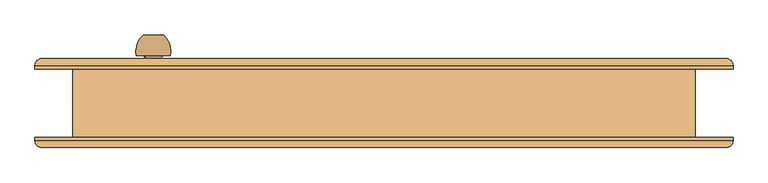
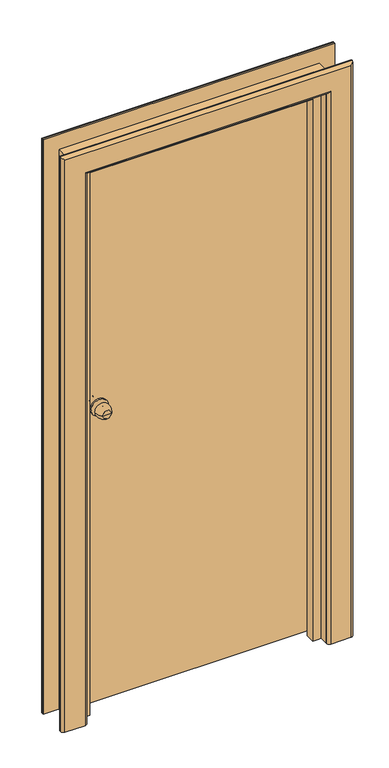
"""IFC4 building model written with IfcOpenShell, lengths in millimetres: door geometry, Внутренняя дверь 1-Навесная - 6629-88 : ДГ 21-9  ГОСТ 6629-88."""

import ifcopenshell
import ifcopenshell.guid

model = None  # the IFC model being written
_history = None  # IfcOwnerHistory: only IFC2X3 demands one
_inside = {}  # id of a spatial element -> (the spatial element, [elements in it])
_under = {}  # id of a project, library or spatial element -> (it, [spatial elements below it])
_declared = {}  # id of a project -> (the project, [libraries it declares])
_typed = {}  # id of a type object -> (the type object, [elements of that type])
_made_of = {}  # id of a material, layer set ... -> (it, [elements and type objects made of it])


def new_model(schema):
    """Start an empty IFC model of exactly this schema.

    Asked for "IFC4X3", IfcOpenShell would pick the latest addendum, in which some entities
    have other attributes; the version numbers below select the first issue.
    IFC2X3 requires an IfcOwnerHistory on every rooted entity: one is made here for all.
    """
    global model, _history
    if schema == "IFC4X3":
        model = ifcopenshell.file(schema_version=(4, 3, 0, 0))
    else:
        model = ifcopenshell.file(schema=schema)
    _inside.clear()
    _under.clear()
    _declared.clear()
    _typed.clear()
    _made_of.clear()
    _history = None
    if model.schema == "IFC2X3":
        org = make("IfcOrganization", Name="unknown")
        user = make(
            "IfcPersonAndOrganization",
            ThePerson=make("IfcPerson", FamilyName="unknown"),
            TheOrganization=org,
        )
        app = make(
            "IfcApplication",
            ApplicationDeveloper=org,
            Version="unknown",
            ApplicationFullName="unknown",
            ApplicationIdentifier="unknown",
        )
        _history = make(
            "IfcOwnerHistory",
            OwningUser=user,
            OwningApplication=app,
            ChangeAction="ADDED",
            CreationDate=0,
        )
    return model


def make(cls, **values):
    """One entity of the class cls with the attributes given. An attribute that is None is left unset."""
    return model.create_entity(
        cls, **{name: value for name, value in values.items() if value is not None}
    )


def rooted(cls, **values):
    """An entity with a GlobalId (a new one), such as an element, a storey or a relation."""
    return make(cls, GlobalId=ifcopenshell.guid.new(), OwnerHistory=_history, **values)


def si_unit(unit_type, name, prefix=None):
    """IfcSIUnit, for example si_unit("LENGTHUNIT", "METRE", prefix="MILLI")."""
    return make("IfcSIUnit", UnitType=unit_type, Prefix=prefix, Name=name)


def assignment(units):
    """IfcUnitAssignment: the units of a project."""
    return None if units is None else make("IfcUnitAssignment", Units=units)


def point(xyz):
    """IfcCartesianPoint."""
    return None if xyz is None else make("IfcCartesianPoint", Coordinates=xyz)


def direction(xyz):
    """IfcDirection."""
    return None if xyz is None else make("IfcDirection", DirectionRatios=xyz)


def frame(location, z_axis=None, x_axis=None):
    """IfcAxis2Placement3D, a coordinate frame: its origin and axes. An axis left out is left unset."""
    return make(
        "IfcAxis2Placement3D",
        Location=point(location),
        Axis=direction(z_axis),
        RefDirection=direction(x_axis),
    )


def origin():
    """The frame at (0, 0, 0) with its axes left unset."""
    return frame((0.0, 0.0, 0.0))


def place(relative_to, where):
    """IfcLocalPlacement: puts the frame where relative to a parent placement (None: the world)."""
    return make(
        "IfcLocalPlacement", PlacementRelTo=relative_to, RelativePlacement=where
    )


def context(
    kind, dimensions, precision=None, world=None, true_north=None, identifier=None
):
    """IfcGeometricRepresentationContext, for example the 3D "Model" context."""
    return make(
        "IfcGeometricRepresentationContext",
        ContextIdentifier=identifier,
        ContextType=kind,
        CoordinateSpaceDimension=dimensions,
        Precision=precision,
        WorldCoordinateSystem=world,
        TrueNorth=true_north,
    )


def project(units=None, contexts=None):
    """IfcProject with its units and contexts."""
    return rooted(
        "IfcProject",
        Name="project",
        RepresentationContexts=contexts,
        UnitsInContext=assignment(units),
    )


def spatial(cls, under=None, at=None, **own):
    """A site, building, storey or space (cls), placed at a placement, below another one or the project."""
    s = rooted(cls, ObjectPlacement=at, **own)
    if under is not None:
        _under.setdefault(under.id(), (under, []))[1].append(s)
    return s


def polyline(points):
    """IfcPolyline through the points."""
    return make("IfcPolyline", Points=[point(p) for p in points])


def circle_curve(where, radius):
    """IfcCircle in the frame where."""
    return make("IfcCircle", Position=where, Radius=radius)


def ellipse_curve(where, semi_axis1, semi_axis2):
    """IfcEllipse in the frame where."""
    return make(
        "IfcEllipse", Position=where, SemiAxis1=semi_axis1, SemiAxis2=semi_axis2
    )


def trimmed(basis, trim1, trim2, sense, master):
    """IfcTrimmedCurve: the piece of a basis curve between two trims."""
    return make(
        "IfcTrimmedCurve",
        BasisCurve=basis,
        Trim1=trim1,
        Trim2=trim2,
        SenseAgreement=sense,
        MasterRepresentation=master,
    )


def outline(outer, holes=None, kind="AREA"):
    """IfcArbitraryClosedProfileDef: a profile drawn as a closed curve; with holes, ...WithVoids."""
    if holes is None:
        return make("IfcArbitraryClosedProfileDef", ProfileType=kind, OuterCurve=outer)
    return make(
        "IfcArbitraryProfileDefWithVoids",
        ProfileType=kind,
        OuterCurve=outer,
        InnerCurves=holes,
    )


def extrude(swept, where, along, depth):
    """IfcExtrudedAreaSolid: the profile swept, set in the frame where, extruded along a direction by depth."""
    return make(
        "IfcExtrudedAreaSolid",
        SweptArea=swept,
        Position=where,
        ExtrudedDirection=direction(along),
        Depth=depth,
    )


def faces_of(points, faces, orient=None, outer=None):
    """IfcFace entities. A face is a list of loops; a loop is a list of indices into points, from 0.

    orient and outer hold one flag for each loop. By default every Orientation is true, the
    first loop of a face is its IfcFaceOuterBound and the others are IfcFaceBound.
    """
    made = []
    for i, loops in enumerate(faces):
        bounds = []
        for j, loop in enumerate(loops):
            is_outer = j == 0 if outer is None else outer[i][j]
            bounds.append(
                make(
                    "IfcFaceOuterBound" if is_outer else "IfcFaceBound",
                    Bound=make("IfcPolyLoop", Polygon=[points[k] for k in loop]),
                    Orientation=True if orient is None else orient[i][j],
                )
            )
        made.append(make("IfcFace", Bounds=bounds))
    return made


def faceted_brep(points, faces, orient=None, outer=None, voids=None):
    """IfcFacetedBrep: a solid bounded by flat faces; with voids (closed shells), ...WithVoids."""
    shared = [point(p) for p in points]
    hull = make("IfcClosedShell", CfsFaces=faces_of(shared, faces, orient, outer))
    if voids is None:
        return make("IfcFacetedBrep", Outer=hull)
    return make(
        "IfcFacetedBrepWithVoids",
        Outer=hull,
        Voids=[
            make(cls, CfsFaces=faces_of(shared, fs, o, b)) for cls, fs, o, b in voids
        ],
    )


def shape(context_of_items, identifier, shape_type, items):
    """IfcShapeRepresentation: the items that make up one representation, for example the "Body"."""
    return make(
        "IfcShapeRepresentation",
        ContextOfItems=context_of_items,
        RepresentationIdentifier=identifier,
        RepresentationType=shape_type,
        Items=items,
    )


def source(mapping_origin, context_of_items, identifier, shape_type, items):
    """IfcRepresentationMap: a shape defined once, which mapped items show again and again."""
    return make(
        "IfcRepresentationMap",
        MappingOrigin=mapping_origin,
        MappedRepresentation=shape(context_of_items, identifier, shape_type, items),
    )


def transform(
    local_origin,
    x_axis=None,
    y_axis=None,
    z_axis=None,
    scale=None,
    scale2=None,
    scale3=None,
    uniform=True,
):
    """IfcCartesianTransformationOperator3D, or its non-uniform kind. x_axis, y_axis, z_axis: its Axis1, 2, 3."""
    if uniform:
        return make(
            "IfcCartesianTransformationOperator3D",
            Axis1=direction(x_axis),
            Axis2=direction(y_axis),
            LocalOrigin=point(local_origin),
            Scale=scale,
            Axis3=direction(z_axis),
        )
    return make(
        "IfcCartesianTransformationOperator3DnonUniform",
        Axis1=direction(x_axis),
        Axis2=direction(y_axis),
        LocalOrigin=point(local_origin),
        Scale=scale,
        Axis3=direction(z_axis),
        Scale2=scale2,
        Scale3=scale3,
    )


def mapped(mapping_source, mapping_target):
    """IfcMappedItem: shows the shape of a source again, moved by a transform."""
    return make(
        "IfcMappedItem", MappingSource=mapping_source, MappingTarget=mapping_target
    )


def made_of(thing, what):
    """Note that an element or type object is made of a material, layer set ...; save() writes the relation."""
    if what is not None:
        _made_of.setdefault(what.id(), (what, []))[1].append(thing)
    return thing


def element(
    cls,
    number,
    at=None,
    inside=None,
    cuts=None,
    type_object=None,
    material=None,
    context=None,
    identifier="Body",
    shape_type=None,
    held_by="IfcProductDefinitionShape",
    body=None,
    shapes=None,
    **own,
):
    """One element of the class cls, such as IfcWall. Its Tag is "e" and its number.

    at: its placement. inside: the storey or other place that contains it. cuts: it is an
    opening in that element (IfcRelVoidsElement). A single representation is given by context,
    identifier, shape_type and body (its items); several are given by shapes. held_by: the class
    of the entity that holds the representations. save() writes the other relations.
    """
    e = rooted(cls, Tag="e%d" % number, ObjectPlacement=at, **own)
    if body is not None:
        shapes = [shape(context, identifier, shape_type, body)]
    if shapes is not None:
        e.Representation = make(held_by, Representations=shapes)
    if inside is not None:
        _inside.setdefault(inside.id(), (inside, []))[1].append(e)
    if cuts is not None:
        rooted(
            "IfcRelVoidsElement", RelatingBuildingElement=cuts, RelatedOpeningElement=e
        )
    if type_object is not None:
        _typed.setdefault(type_object.id(), (type_object, []))[1].append(e)
    return made_of(e, material)


def aggregate(whole, parts):
    """IfcRelAggregates: a whole, such as a stair, and the parts it consists of."""
    return rooted("IfcRelAggregates", RelatingObject=whole, RelatedObjects=parts)


def save(model, path):
    """Write the relations noted so far, then the file.

    IfcRelAggregates (storeys below a building ...), IfcRelContainedInSpatialStructure (elements
    in a storey), IfcRelDefinesByType, IfcRelAssociatesMaterial and IfcRelDeclares: one each for
    every whole, place, type object, material and project.
    """
    for whole, parts in _under.values():
        aggregate(whole, parts)
    for where, things in _inside.values():
        rooted(
            "IfcRelContainedInSpatialStructure",
            RelatedElements=things,
            RelatingStructure=where,
        )
    for kind, things in _typed.values():
        rooted("IfcRelDefinesByType", RelatedObjects=things, RelatingType=kind)
    for what, things in _made_of.values():
        rooted("IfcRelAssociatesMaterial", RelatedObjects=things, RelatingMaterial=what)
    for by, libraries in _declared.values():
        rooted("IfcRelDeclares", RelatingContext=by, RelatedDefinitions=libraries)
    model.write(path)


def plane_surface(at):
    """IfcPlane: the flat surface through the origin of the frame at, square to its z axis."""
    return make("IfcPlane", Position=at)


def cylinder_surface(at, radius):
    """IfcCylindricalSurface: all points at the distance radius from the z axis of the frame at."""
    return make("IfcCylindricalSurface", Position=at, Radius=radius)


def revolved_surface(curve, axis_point, axis_direction):
    """IfcSurfaceOfRevolution: the curve turned about the line through axis_point along axis_direction."""
    return make(
        "IfcSurfaceOfRevolution",
        SweptCurve=make("IfcArbitraryOpenProfileDef", ProfileType="CURVE", Curve=curve),
        AxisPosition=make("IfcAxis1Placement", Location=point(axis_point), Axis=direction(axis_direction)),
    )


def advanced_brep(points, edges, surfaces, faces):
    """IfcAdvancedBrep: a solid bounded by faces that lie on surfaces and meet in shared edges.

    An edge is (start, end): straight between two places in points (the first is 0);
    or (start, end, curve); or (start, end, curve, False) where it runs against its curve.
    A face is (place in surfaces, loops), or (place, loops, False) where it looks against
    its surface's normal. A loop lists edges by number (the first is 1), with a minus sign
    where the edge is run from its end to its start. The first loop is the outer one.
    """
    corners = [point(p) for p in points]
    vertices = [make("IfcVertexPoint", VertexGeometry=c) for c in corners]
    made = []
    for start, end, *more in edges:
        made.append(
            make(
                "IfcEdgeCurve",
                EdgeStart=vertices[start],
                EdgeEnd=vertices[end],
                EdgeGeometry=more[0] if more else make("IfcPolyline", Points=[corners[start], corners[end]]),
                SameSense=more[1] if len(more) > 1 else True,
            )
        )
    hull = []
    for where, loops, *sense in faces:
        bounds = []
        for j, loop in enumerate(loops):
            ring = [make("IfcOrientedEdge", EdgeElement=made[abs(k) - 1], Orientation=k > 0) for k in loop]
            bounds.append(
                make(
                    "IfcFaceOuterBound" if j == 0 else "IfcFaceBound",
                    Bound=make("IfcEdgeLoop", EdgeList=ring),
                    Orientation=True,
                )
            )
        hull.append(make("IfcAdvancedFace", Bounds=bounds, FaceSurface=surfaces[where], SameSense=sense[0] if sense else True))
    return make("IfcAdvancedBrep", Outer=make("IfcClosedShell", CfsFaces=hull))


def door_71a0a05f(model_context):
    return source(origin(), model_context, "Body", "SolidModel", [
        advanced_brep(
        [(-322.0, 100.0, 1100.0), (-337.0, 100.0, 1100.0), (-352.0, 100.0, 1100.0), (-362.0, 70.0, 1100.0), (-312.0, 70.0, 1100.0), (-355.0, 70.0, 1100.0), (-319.0, 70.0, 1100.0), (-347.0, 62.0, 1100.0), (-327.0, 62.0, 1100.0), (-347.0, 56.0, 1100.0), (-327.0, 56.0, 1100.0), (-367.0, 56.0, 1100.0), (-307.0, 56.0, 1100.0), (-367.0, 50.0, 1100.0), (-307.0, 50.0, 1100.0)],
        [
            (0, 1),
            (1, 2),
            (2, 0, circle_curve(frame((-337.0, 100.0, 1100.0), z_axis=(0.0, 1.0, 0.0), x_axis=(-1.0, 0.0, 0.0)), 15.0)),
            (0, 2, circle_curve(frame((-337.0, 100.0, 1100.0), z_axis=(0.0, 1.0, 0.0), x_axis=(-1.0, 0.0, 0.0)), 15.0)),
            (2, 3, circle_curve(frame((-327.3773735, 75.1257912, 1100.0), z_axis=(0.0, 0.0, 1.0), x_axis=(1.0, 0.0, 0.0)), 35.0)),
            (3, 4, circle_curve(frame((-337.0, 70.0, 1100.0), z_axis=(0.0, 1.0, 0.0), x_axis=(-1.0, 0.0, 0.0)), 25.0)),
            (4, 0, circle_curve(frame((-346.6226265, 75.1257912, 1100.0), z_axis=(0.0, 0.0, 1.0), x_axis=(-1.0, 0.0, 0.0)), 35.0)),
            (4, 3, circle_curve(frame((-337.0, 70.0, 1100.0), z_axis=(0.0, 1.0, 0.0), x_axis=(-1.0, 0.0, 0.0)), 25.0)),
            (3, 5),
            (5, 6, circle_curve(frame((-337.0, 70.0, 1100.0), z_axis=(0.0, 1.0, 0.0), x_axis=(-1.0, 0.0, 0.0)), 18.0)),
            (6, 4),
            (6, 5, circle_curve(frame((-337.0, 70.0, 1100.0), z_axis=(0.0, 1.0, 0.0), x_axis=(-1.0, 0.0, 0.0)), 18.0)),
            (5, 7, circle_curve(frame((-355.0, 62.0, 1100.0), z_axis=(0.0, 0.0, -1.0), x_axis=(1.0, 0.0, 0.0)), 8.0)),
            (7, 8, circle_curve(frame((-337.0, 62.0, 1100.0), z_axis=(0.0, 1.0, 0.0), x_axis=(-1.0, 0.0, 0.0)), 10.0)),
            (8, 6, circle_curve(frame((-319.0, 62.0, 1100.0), z_axis=(0.0, 0.0, -1.0), x_axis=(-1.0, 0.0, 0.0)), 8.0)),
            (8, 7, circle_curve(frame((-337.0, 62.0, 1100.0), z_axis=(0.0, 1.0, 0.0), x_axis=(-1.0, 0.0, 0.0)), 10.0)),
            (7, 9),
            (9, 10, circle_curve(frame((-337.0, 56.0, 1100.0), z_axis=(0.0, 1.0, 0.0), x_axis=(-1.0, 0.0, 0.0)), 10.0)),
            (10, 8),
            (10, 9, circle_curve(frame((-337.0, 56.0, 1100.0), z_axis=(0.0, 1.0, 0.0), x_axis=(-1.0, 0.0, 0.0)), 10.0)),
            (11, 12, circle_curve(frame((-337.0, 56.0, 1100.0), z_axis=(0.0, 1.0, 0.0), x_axis=(1.0, 0.0, 0.0)), 30.0)),
            (12, 11, circle_curve(frame((-337.0, 56.0, 1100.0), z_axis=(0.0, 1.0, 0.0), x_axis=(1.0, 0.0, 0.0)), 30.0)),
            (13, 14, circle_curve(frame((-337.0, 50.0, 1100.0), z_axis=(0.0, -1.0, 0.0), x_axis=(1.0, 0.0, 0.0)), 30.0)),
            (14, 13, circle_curve(frame((-337.0, 50.0, 1100.0), z_axis=(0.0, -1.0, 0.0), x_axis=(1.0, 0.0, 0.0)), 30.0)),
            (12, 14),
            (13, 11),
        ],
        [
            plane_surface(frame((-337.0, 100.0, 1100.0), z_axis=(0.0, 1.0, 0.0), x_axis=(-1.0, 0.0, 0.0))),
            revolved_surface(trimmed(ellipse_curve(frame((-327.3773735, 75.1257912, 1100.0), z_axis=(0.0, 0.0, 1.0), x_axis=(1.0, 0.0, 0.0)), 35.0, 35.0), [point((-352.0, 100.0, 1100.0))], [point((-362.0, 70.0, 1100.0))], True, "CARTESIAN"), (-337.0, 130.0, 1100.0), (0.0, -1.0, 0.0)),
            plane_surface(frame((-337.0, 70.0, 1100.0), z_axis=(0.0, -1.0, 0.0), x_axis=(-1.0, 0.0, 0.0))),
            revolved_surface(trimmed(ellipse_curve(frame((-355.0, 62.0, 1100.0), z_axis=(0.0, 0.0, -1.0), x_axis=(1.0, 0.0, 0.0)), 8.0, 8.0), [point((-355.0, 70.0, 1100.0))], [point((-347.0, 62.0, 1100.0))], True, "CARTESIAN"), (-337.0, 130.0, 1100.0), (0.0, -1.0, 0.0)),
            cylinder_surface(frame((-337.0, 130.0, 1100.0), z_axis=(0.0, -1.0, 0.0), x_axis=(-1.0, 0.0, 0.0)), 10.0),
            plane_surface(frame((-307.0, 56.0, 1100.0), z_axis=(0.0, 1.0, 0.0), x_axis=(0.0, 0.0, 1.0))),
            plane_surface(frame((-307.0, 50.0, 1100.0), z_axis=(0.0, -1.0, 0.0), x_axis=(0.0, 0.0, -1.0))),
            cylinder_surface(frame((-337.0, 50.0, 1100.0), z_axis=(0.0, 1.0, 0.0), x_axis=(1.0, 0.0, 0.0)), 30.0),
        ],
        [
            (0, [[1, 2, 3]]),
            (0, [[-1, 4, -2]]),
            (1, [[5, 6, 7, -3]]),
            (1, [[-7, 8, -5, -4]]),
            (2, [[9, 10, 11, -6]]),
            (2, [[-11, 12, -9, -8]]),
            (3, [[13, 14, 15, -10]]),
            (3, [[-15, 16, -13, -12]]),
            (4, [[17, 18, 19, -14]]),
            (4, [[-19, 20, -17, -16]]),
            (5, [[21, 22], [-20, -18]]),
            (6, [[23, 24]]),
            (7, [[25, -23, 26, -22]]),
            (7, [[-26, -24, -25, -21]]),
        ],
    ),
        advanced_brep(
        [(-352.0, -37.0, 1100.0), (-337.0, -37.0, 1100.0), (-322.0, -37.0, 1100.0), (-312.0, -7.0, 1100.0), (-362.0, -7.0, 1100.0), (-319.0, -7.0, 1100.0), (-355.0, -7.0, 1100.0), (-327.0, 1.0, 1100.0), (-347.0, 1.0, 1100.0), (-327.0, 7.0, 1100.0), (-347.0, 7.0, 1100.0), (-307.0, 7.0, 1100.0), (-367.0, 7.0, 1100.0), (-307.0, 13.0, 1100.0), (-367.0, 13.0, 1100.0)],
        [
            (0, 1),
            (1, 2),
            (2, 0, circle_curve(frame((-337.0, -37.0, 1100.0), z_axis=(0.0, -1.0, 0.0), x_axis=(1.0, 0.0, 0.0)), 15.0)),
            (0, 2, circle_curve(frame((-337.0, -37.0, 1100.0), z_axis=(0.0, -1.0, 0.0), x_axis=(1.0, 0.0, 0.0)), 15.0)),
            (2, 3, circle_curve(frame((-346.6226265, -12.1257912, 1100.0), z_axis=(0.0, 0.0, 1.0), x_axis=(-1.0, 0.0, 0.0)), 35.0)),
            (3, 4, circle_curve(frame((-337.0, -7.0, 1100.0), z_axis=(0.0, -1.0, 0.0), x_axis=(1.0, 0.0, 0.0)), 25.0)),
            (4, 0, circle_curve(frame((-327.3773735, -12.1257912, 1100.0), z_axis=(0.0, 0.0, 1.0), x_axis=(1.0, 0.0, 0.0)), 35.0)),
            (4, 3, circle_curve(frame((-337.0, -7.0, 1100.0), z_axis=(0.0, -1.0, 0.0), x_axis=(1.0, 0.0, 0.0)), 25.0)),
            (3, 5),
            (5, 6, circle_curve(frame((-337.0, -7.0, 1100.0), z_axis=(0.0, -1.0, 0.0), x_axis=(1.0, 0.0, 0.0)), 18.0)),
            (6, 4),
            (6, 5, circle_curve(frame((-337.0, -7.0, 1100.0), z_axis=(0.0, -1.0, 0.0), x_axis=(1.0, 0.0, 0.0)), 18.0)),
            (5, 7, circle_curve(frame((-319.0, 1.0, 1100.0), z_axis=(0.0, 0.0, -1.0), x_axis=(-1.0, 0.0, 0.0)), 8.0)),
            (7, 8, circle_curve(frame((-337.0, 1.0, 1100.0), z_axis=(0.0, -1.0, 0.0), x_axis=(1.0, 0.0, 0.0)), 10.0)),
            (8, 6, circle_curve(frame((-355.0, 1.0, 1100.0), z_axis=(0.0, 0.0, -1.0), x_axis=(1.0, 0.0, 0.0)), 8.0)),
            (8, 7, circle_curve(frame((-337.0, 1.0, 1100.0), z_axis=(0.0, -1.0, 0.0), x_axis=(1.0, 0.0, 0.0)), 10.0)),
            (7, 9),
            (9, 10, circle_curve(frame((-337.0, 7.0, 1100.0), z_axis=(0.0, -1.0, 0.0), x_axis=(1.0, 0.0, 0.0)), 10.0)),
            (10, 8),
            (10, 9, circle_curve(frame((-337.0, 7.0, 1100.0), z_axis=(0.0, -1.0, 0.0), x_axis=(1.0, 0.0, 0.0)), 10.0)),
            (11, 12, circle_curve(frame((-337.0, 7.0, 1100.0), z_axis=(0.0, -1.0, 0.0), x_axis=(-1.0, 0.0, 0.0)), 30.0)),
            (12, 11, circle_curve(frame((-337.0, 7.0, 1100.0), z_axis=(0.0, -1.0, 0.0), x_axis=(-1.0, 0.0, 0.0)), 30.0)),
            (13, 14, circle_curve(frame((-337.0, 13.0, 1100.0), z_axis=(0.0, 1.0, 0.0), x_axis=(-1.0, 0.0, 0.0)), 30.0)),
            (14, 13, circle_curve(frame((-337.0, 13.0, 1100.0), z_axis=(0.0, 1.0, 0.0), x_axis=(-1.0, 0.0, 0.0)), 30.0)),
            (12, 14),
            (13, 11),
        ],
        [
            plane_surface(frame((-337.0, -37.0, 1100.0), z_axis=(0.0, -1.0, 0.0), x_axis=(1.0, 0.0, 0.0))),
            revolved_surface(trimmed(ellipse_curve(frame((-346.6226265, -12.1257912, 1100.0), z_axis=(0.0, 0.0, 1.0), x_axis=(-1.0, 0.0, 0.0)), 35.0, 35.0), [point((-322.0, -37.0, 1100.0))], [point((-312.0, -7.0, 1100.0))], True, "CARTESIAN"), (-337.0, -67.0, 1100.0), (0.0, 1.0, 0.0)),
            plane_surface(frame((-337.0, -7.0, 1100.0), z_axis=(0.0, 1.0, 0.0), x_axis=(1.0, 0.0, 0.0))),
            revolved_surface(trimmed(ellipse_curve(frame((-319.0, 1.0, 1100.0), z_axis=(0.0, 0.0, -1.0), x_axis=(-1.0, 0.0, 0.0)), 8.0, 8.0), [point((-319.0, -7.0, 1100.0))], [point((-327.0, 1.0, 1100.0))], True, "CARTESIAN"), (-337.0, -67.0, 1100.0), (0.0, 1.0, 0.0)),
            cylinder_surface(frame((-337.0, -67.0, 1100.0), z_axis=(0.0, 1.0, 0.0), x_axis=(1.0, 0.0, 0.0)), 10.0),
            plane_surface(frame((-367.0, 7.0, 1100.0), z_axis=(0.0, -1.0, 0.0), x_axis=(0.0, 0.0, 1.0))),
            plane_surface(frame((-367.0, 13.0, 1100.0), z_axis=(0.0, 1.0, 0.0), x_axis=(0.0, 0.0, -1.0))),
            cylinder_surface(frame((-337.0, 13.0, 1100.0), z_axis=(0.0, -1.0, 0.0), x_axis=(-1.0, 0.0, 0.0)), 30.0),
        ],
        [
            (0, [[1, 2, 3]]),
            (0, [[-1, 4, -2]]),
            (1, [[5, 6, 7, -3]]),
            (1, [[-7, 8, -5, -4]]),
            (2, [[9, 10, 11, -6]]),
            (2, [[-11, 12, -9, -8]]),
            (3, [[13, 14, 15, -10]]),
            (3, [[-15, 16, -13, -12]]),
            (4, [[17, 18, 19, -14]]),
            (4, [[-19, 20, -17, -16]]),
            (5, [[21, 22], [-20, -18]]),
            (6, [[23, 24]]),
            (7, [[25, -23, 26, -22]]),
            (7, [[-26, -24, -25, -21]]),
        ],
    ),
        extrude(outline(polyline([(0.0, 435.0), (2050.0, 435.0), (2050.0, -435.0), (0.0, -435.0), (0.0, -420.0), (2035.0, -420.0), (2035.0, 420.0), (0.0, 420.0), (0.0, 435.0)])), frame((0.0, -50.0, 0.0), z_axis=(0.0, 1.0, 0.0), x_axis=(0.0, 0.0, 1.0)), (0.0, 0.0, 1.0), 26.0),
        advanced_brep(
        [(-510.0, 50.0, 0.0), (-510.0, 55.0, 0.0), (-500.0, 65.0, 0.0), (-430.0, 65.0, 0.0), (-420.0, 55.0, 0.0), (-420.0, 50.0, 0.0), (-420.0, 50.0, 2035.0), (420.0, 50.0, 2035.0), (420.0, 50.0, 0.0), (510.0, 50.0, 0.0), (510.0, 50.0, 2125.0), (-510.0, 50.0, 2125.0), (-420.0, 55.0, 2035.0), (-430.0, 65.0, 2045.0), (-500.0, 65.0, 2115.0), (500.0, 65.0, 2115.0), (500.0, 65.0, 0.0), (430.0, 65.0, 0.0), (430.0, 65.0, 2045.0), (-510.0, 55.0, 2125.0), (510.0, 55.0, 0.0), (510.0, 55.0, 2125.0), (420.0, 55.0, 0.0), (420.0, 55.0, 2035.0)],
        [
            (0, 1),
            (1, 2, circle_curve(frame((-500.0, 55.0, 0.0), z_axis=(0.0, 0.0, -1.0), x_axis=(-1.0, 0.0, 0.0)), 10.0)),
            (2, 3),
            (3, 4, circle_curve(frame((-430.0, 55.0, 0.0), z_axis=(0.0, 0.0, -1.0), x_axis=(-1.0, 0.0, 0.0)), 10.0)),
            (4, 5),
            (5, 0),
            (5, 6),
            (6, 7),
            (7, 8),
            (8, 9),
            (9, 10),
            (10, 11),
            (11, 0),
            (4, 12),
            (12, 6),
            (3, 13),
            (13, 12, ellipse_curve(frame((-430.0, 55.0, 2045.0), z_axis=(-0.7071067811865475, 0.0, -0.7071067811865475), x_axis=(0.7071067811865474, 0.0, -0.7071067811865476)), 14.1421356, 10.0)),
            (2, 14),
            (14, 15),
            (15, 16),
            (16, 17),
            (17, 18),
            (18, 13),
            (1, 19),
            (19, 14, ellipse_curve(frame((-500.0, 55.0, 2115.0), z_axis=(-0.7071067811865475, 0.0, -0.7071067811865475), x_axis=(0.7071067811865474, 0.0, -0.7071067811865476)), 14.1421356, 10.0)),
            (11, 19),
            (9, 20),
            (20, 21),
            (21, 10),
            (8, 22),
            (22, 17, circle_curve(frame((430.0, 55.0, 0.0), z_axis=(0.0, 0.0, -1.0), x_axis=(1.0, 0.0, 0.0)), 10.0)),
            (16, 20, circle_curve(frame((500.0, 55.0, 0.0), z_axis=(0.0, 0.0, -1.0), x_axis=(1.0, 0.0, 0.0)), 10.0)),
            (23, 22),
            (7, 23),
            (23, 18, ellipse_curve(frame((430.0, 55.0, 2045.0), z_axis=(0.7071067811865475, 0.0, -0.7071067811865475), x_axis=(0.7071067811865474, 0.0, 0.7071067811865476)), 14.1421356, 10.0)),
            (15, 21, ellipse_curve(frame((500.0, 55.0, 2115.0), z_axis=(0.7071067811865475, 0.0, -0.7071067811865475), x_axis=(0.7071067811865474, 0.0, 0.7071067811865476)), 14.1421356, 10.0)),
            (12, 23),
            (19, 21),
        ],
        [
            plane_surface(frame((-455.0, 50.0, 0.0), z_axis=(0.0, 0.0, -1.0), x_axis=(0.0, -1.0, 0.0))),
            plane_surface(frame((-510.0, 50.0, 0.0), z_axis=(0.0, -1.0, 0.0), x_axis=(0.0, 0.0, 1.0))),
            plane_surface(frame((-420.0, 50.0, 0.0), z_axis=(1.0, 0.0, 0.0), x_axis=(0.0, 0.0, 1.0))),
            cylinder_surface(frame((-430.0, 55.0, 0.0), z_axis=(0.0, 0.0, -1.0), x_axis=(-1.0, 0.0, 0.0)), 10.0),
            plane_surface(frame((-430.0, 65.0, 0.0), z_axis=(0.0, 1.0, 0.0), x_axis=(0.0, 0.0, 1.0))),
            cylinder_surface(frame((-500.0, 55.0, 0.0), z_axis=(0.0, 0.0, -1.0), x_axis=(-1.0, 0.0, 0.0)), 10.0),
            plane_surface(frame((-510.0, 55.0, 0.0), z_axis=(-1.0, 0.0, 0.0), x_axis=(0.0, 0.0, 1.0))),
            plane_surface(frame((510.0, 55.0, 2125.0), z_axis=(1.0, 0.0, 0.0), x_axis=(0.0, 0.0, -1.0))),
            plane_surface(frame((455.0, 50.0, 0.0), z_axis=(0.0, 0.0, -1.0), x_axis=(0.0, -1.0, 0.0))),
            plane_surface(frame((420.0, 50.0, 2035.0), z_axis=(-1.0, 0.0, 0.0), x_axis=(0.0, 0.0, -1.0))),
            cylinder_surface(frame((430.0, 55.0, 2070.0), z_axis=(0.0, 0.0, 1.0), x_axis=(1.0, 0.0, 0.0)), 10.0),
            cylinder_surface(frame((500.0, 55.0, 2070.0), z_axis=(0.0, 0.0, 1.0), x_axis=(1.0, 0.0, 0.0)), 10.0),
            plane_surface(frame((-420.0, 50.0, 2035.0), z_axis=(0.0, 0.0, -1.0), x_axis=(1.0, 0.0, 0.0))),
            cylinder_surface(frame((-455.0, 55.0, 2045.0), z_axis=(-1.0, 0.0, 0.0), x_axis=(0.0, 0.0, 1.0)), 10.0),
            cylinder_surface(frame((-455.0, 55.0, 2115.0), z_axis=(-1.0, 0.0, 0.0), x_axis=(0.0, 0.0, 1.0)), 10.0),
            plane_surface(frame((-510.0, 55.0, 2125.0), z_axis=(0.0, 0.0, 1.0), x_axis=(1.0, 0.0, 0.0))),
        ],
        [
            (0, [[1, 2, 3, 4, 5, 6]]),
            (1, [[7, 8, 9, 10, 11, 12, 13, -6]]),
            (2, [[14, 15, -7, -5]]),
            (3, [[16, 17, -14, -4]]),
            (4, [[18, 19, 20, 21, 22, 23, -16, -3]]),
            (5, [[24, 25, -18, -2]]),
            (6, [[-13, 26, -24, -1]]),
            (7, [[-11, 27, 28, 29]]),
            (8, [[-10, 30, 31, -21, 32, -27]]),
            (9, [[33, -30, -9, 34]]),
            (10, [[-22, -31, -33, 35]]),
            (11, [[-28, -32, -20, 36]]),
            (12, [[37, -34, -8, -15]]),
            (13, [[-23, -35, -37, -17]]),
            (14, [[38, -36, -19, -25]]),
            (15, [[-12, -29, -38, -26]]),
        ],
    ),
        advanced_brep(
        [(510.0, -50.0, 0.0), (510.0, -55.0, 0.0), (500.0, -65.0, 0.0), (430.0, -65.0, 0.0), (420.0, -55.0, 0.0), (420.0, -50.0, 0.0), (420.0, -50.0, 2035.0), (-420.0, -50.0, 2035.0), (-420.0, -50.0, 0.0), (-510.0, -50.0, 0.0), (-510.0, -50.0, 2125.0), (510.0, -50.0, 2125.0), (420.0, -55.0, 2035.0), (430.0, -65.0, 2045.0), (500.0, -65.0, 2115.0), (-500.0, -65.0, 2115.0), (-500.0, -65.0, 0.0), (-430.0, -65.0, 0.0), (-430.0, -65.0, 2045.0), (510.0, -55.0, 2125.0), (-510.0, -55.0, 0.0), (-510.0, -55.0, 2125.0), (-420.0, -55.0, 0.0), (-420.0, -55.0, 2035.0)],
        [
            (0, 1),
            (1, 2, circle_curve(frame((500.0, -55.0, 0.0), z_axis=(0.0, 0.0, -1.0), x_axis=(1.0, 0.0, 0.0)), 10.0)),
            (2, 3),
            (3, 4, circle_curve(frame((430.0, -55.0, 0.0), z_axis=(0.0, 0.0, -1.0), x_axis=(1.0, 0.0, 0.0)), 10.0)),
            (4, 5),
            (5, 0),
            (5, 6),
            (6, 7),
            (7, 8),
            (8, 9),
            (9, 10),
            (10, 11),
            (11, 0),
            (4, 12),
            (12, 6),
            (3, 13),
            (13, 12, ellipse_curve(frame((430.0, -55.0, 2045.0), z_axis=(0.7071067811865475, 0.0, -0.7071067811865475), x_axis=(-0.7071067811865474, 0.0, -0.7071067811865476)), 14.1421356, 10.0)),
            (2, 14),
            (14, 15),
            (15, 16),
            (16, 17),
            (17, 18),
            (18, 13),
            (1, 19),
            (19, 14, ellipse_curve(frame((500.0, -55.0, 2115.0), z_axis=(0.7071067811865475, 0.0, -0.7071067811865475), x_axis=(-0.7071067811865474, 0.0, -0.7071067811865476)), 14.1421356, 10.0)),
            (11, 19),
            (9, 20),
            (20, 21),
            (21, 10),
            (8, 22),
            (22, 17, circle_curve(frame((-430.0, -55.0, 0.0), z_axis=(0.0, 0.0, -1.0), x_axis=(-1.0, 0.0, 0.0)), 10.0)),
            (16, 20, circle_curve(frame((-500.0, -55.0, 0.0), z_axis=(0.0, 0.0, -1.0), x_axis=(-1.0, 0.0, 0.0)), 10.0)),
            (23, 22),
            (7, 23),
            (23, 18, ellipse_curve(frame((-430.0, -55.0, 2045.0), z_axis=(-0.7071067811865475, 0.0, -0.7071067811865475), x_axis=(-0.7071067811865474, 0.0, 0.7071067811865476)), 14.1421356, 10.0)),
            (15, 21, ellipse_curve(frame((-500.0, -55.0, 2115.0), z_axis=(-0.7071067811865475, 0.0, -0.7071067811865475), x_axis=(-0.7071067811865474, 0.0, 0.7071067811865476)), 14.1421356, 10.0)),
            (12, 23),
            (19, 21),
        ],
        [
            plane_surface(frame((455.0, -50.0, 0.0), z_axis=(0.0, 0.0, -1.0), x_axis=(0.0, 1.0, 0.0))),
            plane_surface(frame((510.0, -50.0, 0.0), z_axis=(0.0, 1.0, 0.0), x_axis=(0.0, 0.0, 1.0))),
            plane_surface(frame((420.0, -50.0, 0.0), z_axis=(-1.0, 0.0, 0.0), x_axis=(0.0, 0.0, 1.0))),
            cylinder_surface(frame((430.0, -55.0, 0.0), z_axis=(0.0, 0.0, -1.0), x_axis=(1.0, 0.0, 0.0)), 10.0),
            plane_surface(frame((430.0, -65.0, 0.0), z_axis=(0.0, -1.0, 0.0), x_axis=(0.0, 0.0, 1.0))),
            cylinder_surface(frame((500.0, -55.0, 0.0), z_axis=(0.0, 0.0, -1.0), x_axis=(1.0, 0.0, 0.0)), 10.0),
            plane_surface(frame((510.0, -55.0, 0.0), z_axis=(1.0, 0.0, 0.0), x_axis=(0.0, 0.0, 1.0))),
            plane_surface(frame((-510.0, -55.0, 2125.0), z_axis=(-1.0, 0.0, 0.0), x_axis=(0.0, 0.0, -1.0))),
            plane_surface(frame((-455.0, -50.0, 0.0), z_axis=(0.0, 0.0, -1.0), x_axis=(0.0, 1.0, 0.0))),
            plane_surface(frame((-420.0, -50.0, 2035.0), z_axis=(1.0, 0.0, 0.0), x_axis=(0.0, 0.0, -1.0))),
            cylinder_surface(frame((-430.0, -55.0, 2070.0), z_axis=(0.0, 0.0, 1.0), x_axis=(-1.0, 0.0, 0.0)), 10.0),
            cylinder_surface(frame((-500.0, -55.0, 2070.0), z_axis=(0.0, 0.0, 1.0), x_axis=(-1.0, 0.0, 0.0)), 10.0),
            plane_surface(frame((420.0, -50.0, 2035.0), z_axis=(0.0, 0.0, -1.0), x_axis=(-1.0, 0.0, 0.0))),
            cylinder_surface(frame((455.0, -55.0, 2045.0), z_axis=(1.0, 0.0, 0.0), x_axis=(0.0, 0.0, 1.0)), 10.0),
            cylinder_surface(frame((455.0, -55.0, 2115.0), z_axis=(1.0, 0.0, 0.0), x_axis=(0.0, 0.0, 1.0)), 10.0),
            plane_surface(frame((510.0, -55.0, 2125.0), z_axis=(0.0, 0.0, 1.0), x_axis=(-1.0, 0.0, 0.0))),
        ],
        [
            (0, [[1, 2, 3, 4, 5, 6]]),
            (1, [[7, 8, 9, 10, 11, 12, 13, -6]]),
            (2, [[14, 15, -7, -5]]),
            (3, [[16, 17, -14, -4]]),
            (4, [[18, 19, 20, 21, 22, 23, -16, -3]]),
            (5, [[24, 25, -18, -2]]),
            (6, [[-13, 26, -24, -1]]),
            (7, [[-11, 27, 28, 29]]),
            (8, [[-10, 30, 31, -21, 32, -27]]),
            (9, [[33, -30, -9, 34]]),
            (10, [[-22, -31, -33, 35]]),
            (11, [[-28, -32, -20, 36]]),
            (12, [[37, -34, -8, -15]]),
            (13, [[-23, -35, -37, -17]]),
            (14, [[38, -36, -19, -25]]),
            (15, [[-12, -29, -38, -26]]),
        ],
    ),
        faceted_brep([(390.0, -24.0, 0.0), (390.0, 8.0, 0.0), (402.0, 8.0, 0.0), (402.0, 50.0, 0.0), (435.0, 50.0, 0.0), (435.0, -24.0, 0.0), (435.0, -24.0, 2050.0), (-435.0, -24.0, 2050.0), (-435.0, -24.0, 0.0), (-390.0, -24.0, 0.0), (-390.0, -24.0, 2005.0), (390.0, -24.0, 2005.0), (435.0, 50.0, 2050.0), (402.0, 50.0, 2017.0), (-402.0, 50.0, 2017.0), (-402.0, 50.0, 0.0), (-435.0, 50.0, 0.0), (-435.0, 50.0, 2050.0), (402.0, 8.0, 2017.0), (390.0, 8.0, 2005.0), (-390.0, 8.0, 2005.0), (-390.0, 8.0, 0.0), (-402.0, 8.0, 0.0), (-402.0, 8.0, 2017.0)], [[[0, 1, 2, 3, 4, 5]], [[5, 6, 7, 8, 9, 10, 11, 0]], [[4, 12, 6, 5]], [[3, 13, 14, 15, 16, 17, 12, 4]], [[2, 18, 13, 3]], [[1, 19, 20, 21, 22, 23, 18, 2]], [[0, 11, 19, 1]], [[10, 9, 21, 20]], [[9, 8, 16, 15, 22, 21]], [[17, 16, 8, 7]], [[23, 22, 15, 14]], [[12, 17, 7, 6]], [[18, 23, 14, 13]], [[11, 10, 20, 19]]]),
        extrude(outline(polyline([(0.0, 455.0), (2070.0, 455.0), (2070.0, -455.0), (0.0, -455.0), (0.0, -435.0), (2050.0, -435.0), (2050.0, 435.0), (0.0, 435.0), (0.0, 455.0)])), frame((0.0, -50.0, 0.0), z_axis=(0.0, 1.0, 0.0), x_axis=(0.0, 0.0, 1.0)), (0.0, 0.0, 1.0), 100.0),
        extrude(outline(polyline([(397.0, 13.0), (-397.0, 13.0), (-397.0, 50.0), (397.0, 50.0), (397.0, 13.0)])), frame((0.0, 0.0, 15.0), z_axis=(0.0, 0.0, 1.0), x_axis=(1.0, 0.0, 0.0)), (0.0, 0.0, 1.0), 1997.0),
    ])


if __name__ == "__main__":
    model = new_model("IFC4")
    model_context = context("Model", 3, world=origin())
    ifc_project = project(units=[si_unit("LENGTHUNIT", "METRE", prefix="MILLI")], contexts=[model_context])
    site = spatial("IfcSite", under=ifc_project)
    building = spatial("IfcBuilding", under=site)
    placement = place(None, origin())
    door_shape = door_71a0a05f(model_context)
    element("IfcDoor", 1, ObjectType="Внутренняя дверь 1-Навесная - 6629-88 : ДГ 21-9  ГОСТ 6629-88", at=placement, inside=building, context=model_context, shape_type="MappedRepresentation", body=[
        mapped(door_shape, transform((0.0, 0.0, 0.0), x_axis=(1.0, 0.0, 0.0), y_axis=(0.0, 1.0, 0.0), z_axis=(0.0, 0.0, 1.0))),
    ])
    save(model, "model.ifc")
